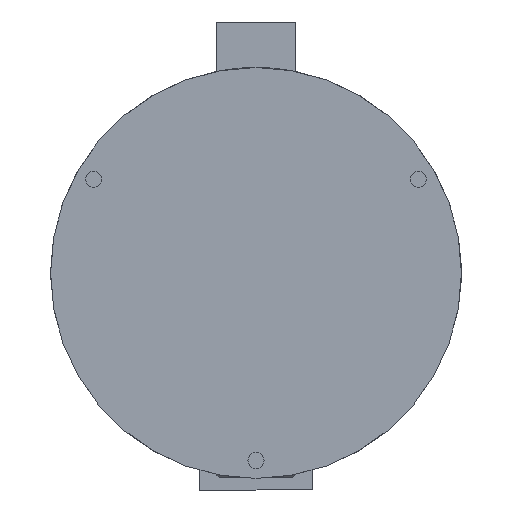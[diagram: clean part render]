
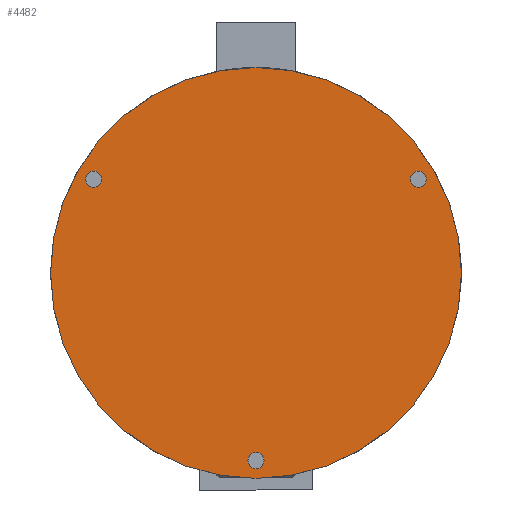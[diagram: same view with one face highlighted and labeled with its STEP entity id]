
A CAD part, front view. The second image highlights one B-rep face of the part: STEP entity #4482.
In plain terms, the highlighted planar face has unit normal (0, -1, 0).
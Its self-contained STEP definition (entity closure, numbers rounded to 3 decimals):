
#179 = CARTESIAN_POINT ( 'NONE',  ( -90.933, 0., 48. ) ) ;
#219 = AXIS2_PLACEMENT_3D ( 'NONE', #3155, #1243, #1213 ) ;
#464 = ORIENTED_EDGE ( 'NONE', *, *, #7900, .T. ) ;
#591 = DIRECTION ( 'NONE',  ( 0., 1., 0. ) ) ;
#592 = AXIS2_PLACEMENT_3D ( 'NONE', #7227, #2927, #7908 ) ;
#721 = CARTESIAN_POINT ( 'NONE',  ( 0., 0., 0. ) ) ;
#795 = CARTESIAN_POINT ( 'NONE',  ( 90.933, 0., 48. ) ) ;
#854 = VERTEX_POINT ( 'NONE', #6233 ) ;
#919 = CARTESIAN_POINT ( 'NONE',  ( 0., 0., 115. ) ) ;
#993 = FACE_BOUND ( 'NONE', #1725, .T. ) ;
#1003 = VERTEX_POINT ( 'NONE', #8949 ) ;
#1211 = FACE_BOUND ( 'NONE', #7751, .T. ) ;
#1213 = DIRECTION ( 'NONE',  ( 0., 0., 1. ) ) ;
#1243 = DIRECTION ( 'NONE',  ( 0., 1., 0. ) ) ;
#1284 = CARTESIAN_POINT ( 'NONE',  ( 0., 0., -115. ) ) ;
#1413 = EDGE_LOOP ( 'NONE', ( #6662, #7266 ) ) ;
#1434 = PLANE ( 'NONE',  #7561 ) ;
#1608 = ORIENTED_EDGE ( 'NONE', *, *, #2325, .F. ) ;
#1699 = CIRCLE ( 'NONE', #4089, 4.5 ) ;
#1725 = EDGE_LOOP ( 'NONE', ( #5572, #9107 ) ) ;
#1823 = VERTEX_POINT ( 'NONE', #5032 ) ;
#2131 = CIRCLE ( 'NONE', #3084, 4.5 ) ;
#2325 = EDGE_CURVE ( 'NONE', #5437, #7934, #4311, .T. ) ;
#2378 = CARTESIAN_POINT ( 'NONE',  ( 0., 0., 0. ) ) ;
#2539 = DIRECTION ( 'NONE',  ( 0., 1., 0. ) ) ;
#2595 = DIRECTION ( 'NONE',  ( 0., 1., 0. ) ) ;
#2689 = EDGE_CURVE ( 'NONE', #5232, #8514, #8173, .T. ) ;
#2723 = CARTESIAN_POINT ( 'NONE',  ( 0., 0., 0. ) ) ;
#2880 = FACE_OUTER_BOUND ( 'NONE', #4765, .T. ) ;
#2927 = DIRECTION ( 'NONE',  ( 0., 1., 0. ) ) ;
#3015 = CARTESIAN_POINT ( 'NONE',  ( 0., 0., -105. ) ) ;
#3065 = DIRECTION ( 'NONE',  ( 0., 0., 1. ) ) ;
#3084 = AXIS2_PLACEMENT_3D ( 'NONE', #6906, #2595, #7581 ) ;
#3155 = CARTESIAN_POINT ( 'NONE',  ( 90.933, 0., 52.5 ) ) ;
#3240 = ORIENTED_EDGE ( 'NONE', *, *, #3817, .T. ) ;
#3750 = DIRECTION ( 'NONE',  ( 0., 0., 1. ) ) ;
#3817 = EDGE_CURVE ( 'NONE', #854, #1823, #4932, .T. ) ;
#3963 = EDGE_CURVE ( 'NONE', #4576, #1003, #2131, .T. ) ;
#4089 = AXIS2_PLACEMENT_3D ( 'NONE', #6835, #2539, #7510 ) ;
#4205 = EDGE_CURVE ( 'NONE', #7934, #5437, #5219, .T. ) ;
#4239 = AXIS2_PLACEMENT_3D ( 'NONE', #2723, #5031, #5709 ) ;
#4245 = CIRCLE ( 'NONE', #8190, 4.5 ) ;
#4311 = CIRCLE ( 'NONE', #4239, 115. ) ;
#4410 = EDGE_CURVE ( 'NONE', #8514, #5232, #4245, .T. ) ;
#4482 = ADVANCED_FACE ( 'NONE', ( #6722, #993, #1211, #2880 ), #1434, .F. ) ;
#4576 = VERTEX_POINT ( 'NONE', #179 ) ;
#4765 = EDGE_LOOP ( 'NONE', ( #1608, #7834 ) ) ;
#4846 = CARTESIAN_POINT ( 'NONE',  ( 90.933, 0., 52.5 ) ) ;
#4932 = CIRCLE ( 'NONE', #592, 4.5 ) ;
#5031 = DIRECTION ( 'NONE',  ( 0., 1., 0. ) ) ;
#5032 = CARTESIAN_POINT ( 'NONE',  ( 0., 0., -100.5 ) ) ;
#5137 = CIRCLE ( 'NONE', #8490, 4.5 ) ;
#5219 = CIRCLE ( 'NONE', #8881, 115. ) ;
#5232 = VERTEX_POINT ( 'NONE', #795 ) ;
#5437 = VERTEX_POINT ( 'NONE', #1284 ) ;
#5572 = ORIENTED_EDGE ( 'NONE', *, *, #4410, .T. ) ;
#5573 = DIRECTION ( 'NONE',  ( 0., 0., 1. ) ) ;
#5709 = DIRECTION ( 'NONE',  ( 0., 0., 1. ) ) ;
#6233 = CARTESIAN_POINT ( 'NONE',  ( 0., 0., -109.5 ) ) ;
#6466 = DIRECTION ( 'NONE',  ( 0., 0., 1. ) ) ;
#6662 = ORIENTED_EDGE ( 'NONE', *, *, #8192, .T. ) ;
#6722 = FACE_BOUND ( 'NONE', #1413, .T. ) ;
#6835 = CARTESIAN_POINT ( 'NONE',  ( -90.933, 0., 52.5 ) ) ;
#6906 = CARTESIAN_POINT ( 'NONE',  ( -90.933, 0., 52.5 ) ) ;
#7227 = CARTESIAN_POINT ( 'NONE',  ( 0., 0., -105. ) ) ;
#7266 = ORIENTED_EDGE ( 'NONE', *, *, #3963, .T. ) ;
#7362 = DIRECTION ( 'NONE',  ( 0., 1., 0. ) ) ;
#7510 = DIRECTION ( 'NONE',  ( 0., 0., 1. ) ) ;
#7561 = AXIS2_PLACEMENT_3D ( 'NONE', #721, #8480, #6466 ) ;
#7581 = DIRECTION ( 'NONE',  ( 0., 0., 1. ) ) ;
#7751 = EDGE_LOOP ( 'NONE', ( #464, #3240 ) ) ;
#7834 = ORIENTED_EDGE ( 'NONE', *, *, #4205, .F. ) ;
#7900 = EDGE_CURVE ( 'NONE', #1823, #854, #5137, .T. ) ;
#7908 = DIRECTION ( 'NONE',  ( 0., 0., 1. ) ) ;
#7934 = VERTEX_POINT ( 'NONE', #919 ) ;
#8005 = DIRECTION ( 'NONE',  ( 0., 1., 0. ) ) ;
#8173 = CIRCLE ( 'NONE', #219, 4.5 ) ;
#8190 = AXIS2_PLACEMENT_3D ( 'NONE', #4846, #591, #5573 ) ;
#8192 = EDGE_CURVE ( 'NONE', #1003, #4576, #1699, .T. ) ;
#8404 = CARTESIAN_POINT ( 'NONE',  ( 90.933, 0., 57. ) ) ;
#8480 = DIRECTION ( 'NONE',  ( 0., 1., 0. ) ) ;
#8490 = AXIS2_PLACEMENT_3D ( 'NONE', #3015, #8005, #3750 ) ;
#8514 = VERTEX_POINT ( 'NONE', #8404 ) ;
#8881 = AXIS2_PLACEMENT_3D ( 'NONE', #2378, #7362, #3065 ) ;
#8949 = CARTESIAN_POINT ( 'NONE',  ( -90.933, 0., 57. ) ) ;
#9107 = ORIENTED_EDGE ( 'NONE', *, *, #2689, .T. ) ;
